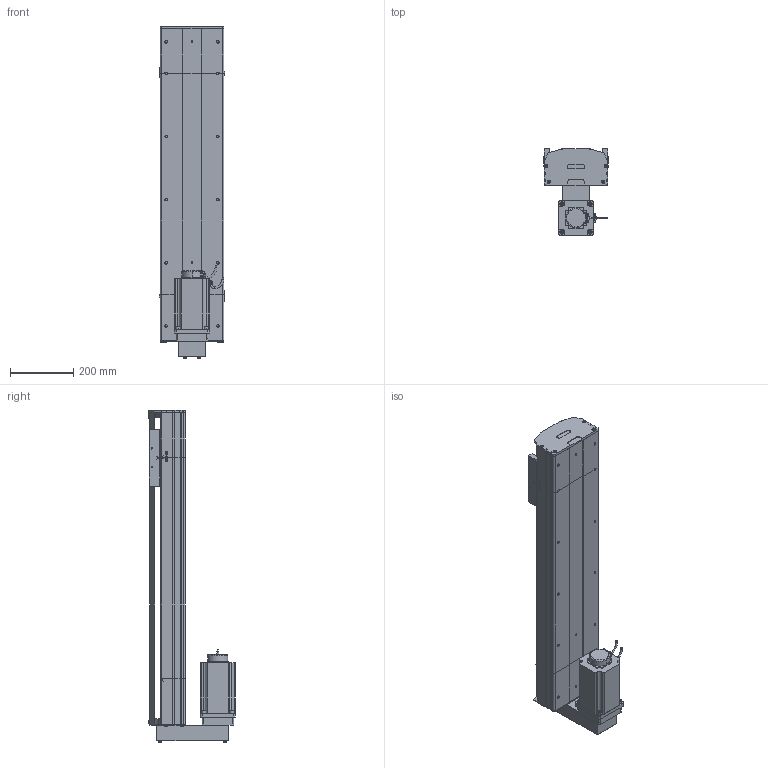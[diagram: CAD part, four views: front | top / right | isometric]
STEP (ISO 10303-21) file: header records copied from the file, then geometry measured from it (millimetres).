
FILE_DESCRIPTION (( 'STEP AP214' ), '1' );
FILE_NAME ('D20 TSH BM S700.STEP', '2010-06-30T08:34:32', ( 'Conseil Régional Haute-Normandie' ), ( 'Conseil Régional Haute-Normandie' ), 'SwSTEP 2.0', 'SolidWorks 2010', '' );
FILE_SCHEMA (( 'AUTOMOTIVE_DESIGN' ));
Length unit declared in the file: millimetre
Products named in the file (35): couvercle D20 S700_Default; Plaque racord D20_Default; tail D20 +100_Default; head BM D20_Default; Arbre+rail tail D20; tete d''axe haut D20; vis M5 L70_Default; renvoi  BM_Default; corps 110BLDC170A-630x; avant 110BLDC170A-630x; couvercle head l D20_Default; Arbre+rail head D20; Moteur motionking 110BLDC170A-640x; Conecteur_Default; corpl head MD D20_Default; vis M8 L12_Default; clavette; Conecteur2_Default; codeur 110BLDC170A-630x; plaque de  bout head BR D20_Default; tete d''axe bas D20; corpl tail D20 +100_Default; chariot D20S_Default; vis M5 L25_Default; vis M5 L12_Default; guide D20; Chariot D20; 2 vis M5 L12_Default; couvercle tail D20_Default; plaque de  bout tail D20_Default; vis M5 L8 90°_Default; rail + arbre  D20 S700; corp D20 S700_Default; course D20 L700_Default; D20 TSH BM S700
Assembly tree (59 placements, depth 4):
  D20 TSH BM S700
    chariot D20S_Default
      guide D20  x2
      vis M5 L12_Default  x4
      Chariot D20
    tail D20 +100_Default
      2 vis M5 L12_Default  x4
      plaque de  bout tail D20_Default
      vis M5 L8 90°_Default  x2
      vis M5 L25_Default  x2
      Arbre+rail tail D20
      tete d''axe bas D20
      couvercle tail D20_Default
      tete d''axe haut D20
      corpl tail D20 +100_Default
    head BM D20_Default
      renvoi  BM_Default
      vis M5 L12_Default  x2
      2 vis M5 L12_Default  x6
      vis M5 L70_Default  x4
      vis M8 L12_Default  x4
      plaque de  bout head BR D20_Default
      corpl head MD D20_Default
      Arbre+rail head D20
      vis M5 L25_Default  x2
      couvercle head l D20_Default
      Moteur motionking 110BLDC170A-640x
        avant 110BLDC170A-630x
        clavette
        corps 110BLDC170A-630x
        Conecteur2_Default
        codeur 110BLDC170A-630x
        Conecteur_Default
      Plaque racord D20_Default
    course D20 L700_Default
      corp D20 S700_Default
      couvercle D20 S700_Default
      rail + arbre  D20 S700
Bounding box: 206 x 273.7 x 1051.7 mm (x, y, z)
Volume: 11060896.4 mm3; surface area: 2251409.1 mm2
Topology: 84 solids, 84 shells, 2320 faces, 5825 edges, 3761 vertices
Faces by surface type: plane 1388, cylinder 644, bspline 136, torus 77, cone 71, sphere 4
Entity records: 75338 total; most frequent: CARTESIAN_POINT 24598, ORIENTED_EDGE 8946, DIRECTION 8430, EDGE_CURVE 4473, VECTOR 2960, LINE 2960, VERTEX_POINT 2943, AXIS2_PLACEMENT_3D 2735
